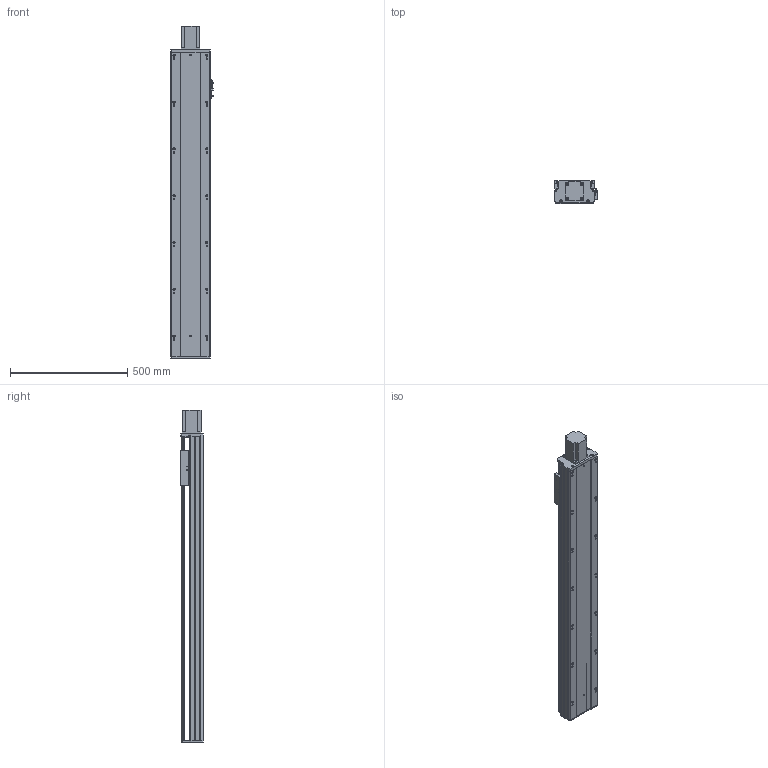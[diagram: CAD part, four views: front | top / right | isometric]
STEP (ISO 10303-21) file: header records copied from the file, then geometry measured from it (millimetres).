
FILE_DESCRIPTION (( 'STEP AP203' ), '1' );
FILE_NAME ('Y170-D10-S1050-BD-P750W.STEP', '2020-01-22T07:05:56', ( '微软用户' ), ( '微软中国' ), 'SwSTEP 2.0', 'SolidWorks 2017', '' );
FILE_SCHEMA (( 'CONFIG_CONTROL_DESIGN' ));
Length unit declared in the file: millimetre
Products named in the file (10): 侂狟750W; Y170耜裔--準---; Y170-陔遴奻裔-BD; Y170--雄赽釱-梓--; YD-Y100-135-新外置传感挡片(通用）; Y170-D10-S1050-BD-P750W; Y100-135俋离換覜ん; 170--掛极-BD; Y170-萇儂楊擘啣--; 135-盓傅釱-FK15
Assembly tree (11 placements, depth 2):
  Y170-D10-S1050-BD-P750W
    YD-Y100-135-新外置传感挡片(通用）
    Y100-135俋离換覜ん  x3
    170--掛极-BD
    Y170-萇儂楊擘啣--
    135-盓傅釱-FK15
    侂狟750W
    Y170耜裔--準---
    Y170-陔遴奻裔-BD
    Y170--雄赽釱-梓--
Bounding box: 183.5 x 97 x 1418.5 mm (x, y, z)
Volume: 6037072.7 mm3; surface area: 2043083.3 mm2
Topology: 11 solids, 11 shells, 828 faces, 2355 edges, 1560 vertices
Faces by surface type: cylinder 438, plane 388, torus 2
Entity records: 26991 total; most frequent: CARTESIAN_POINT 4843, DIRECTION 4505, ORIENTED_EDGE 4374, EDGE_CURVE 2187, AXIS2_PLACEMENT_3D 1622, VERTEX_POINT 1448, LINE 1261, VECTOR 1261
